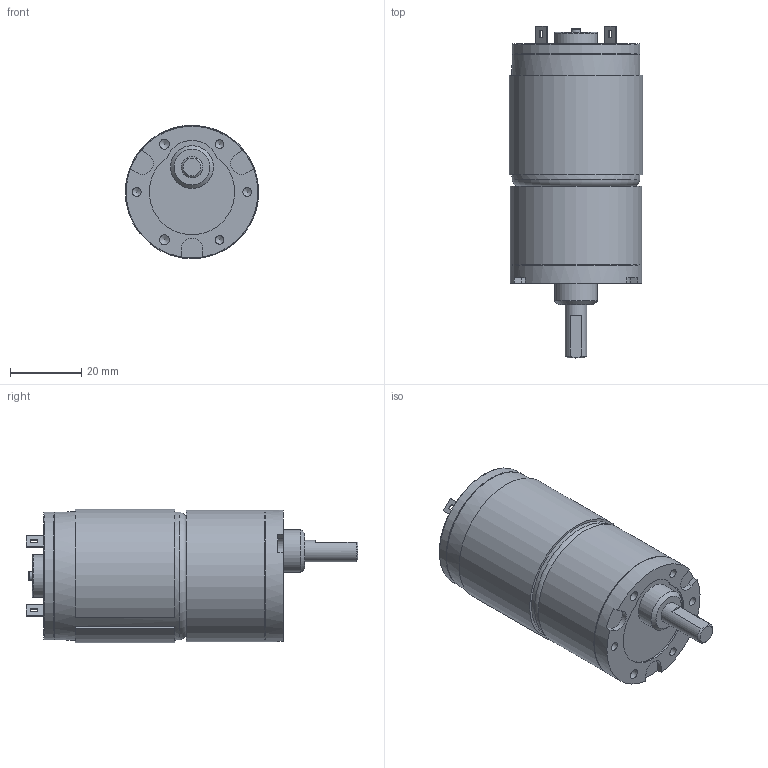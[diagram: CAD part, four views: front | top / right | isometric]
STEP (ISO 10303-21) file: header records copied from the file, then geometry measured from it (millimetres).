
FILE_DESCRIPTION((''),'2;1');
FILE_NAME('C:\Documents and Settings\SSEGAWA\デスクトップ\TP-3640B-KS-4.STP','2013-07-18T17:04:37',('SSEGAWA'),(''),'Autodesk Inventor 2010','Autodesk Inventor 2010','');
FILE_SCHEMA(('CONFIG_CONTROL_DESIGN'));
Length unit declared in the file: millimetre
Products named in the file (1): tp_3640bce_ks_4_Shrinkwrap_1
Bounding box: 37.5 x 93.2 x 37.5 mm (x, y, z)
Volume: 73156.1 mm3; surface area: 11827.8 mm2
Topology: 4 solids, 4 shells, 100 faces, 234 edges, 155 vertices
Faces by surface type: plane 56, bspline 20, cylinder 18, cone 3, torus 3
Full cylindrical faces by diameter (mm): 2.5 x1, 4 x1, 4.5 x1, 6 x1, 12 x2, 35.6 x1, 36 x2, 36.6 x1, 37 x2
Entity records: 2839 total; most frequent: CARTESIAN_POINT 698, DIRECTION 403, ORIENTED_EDGE 354, EDGE_CURVE 177, EDGE_LOOP 151, AXIS2_PLACEMENT_3D 147, VERTEX_POINT 132, VECTOR 109
